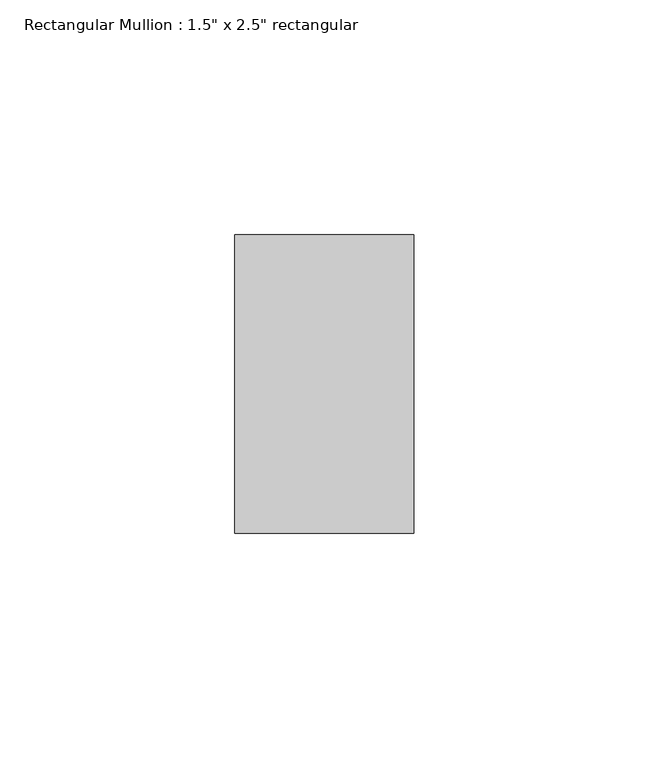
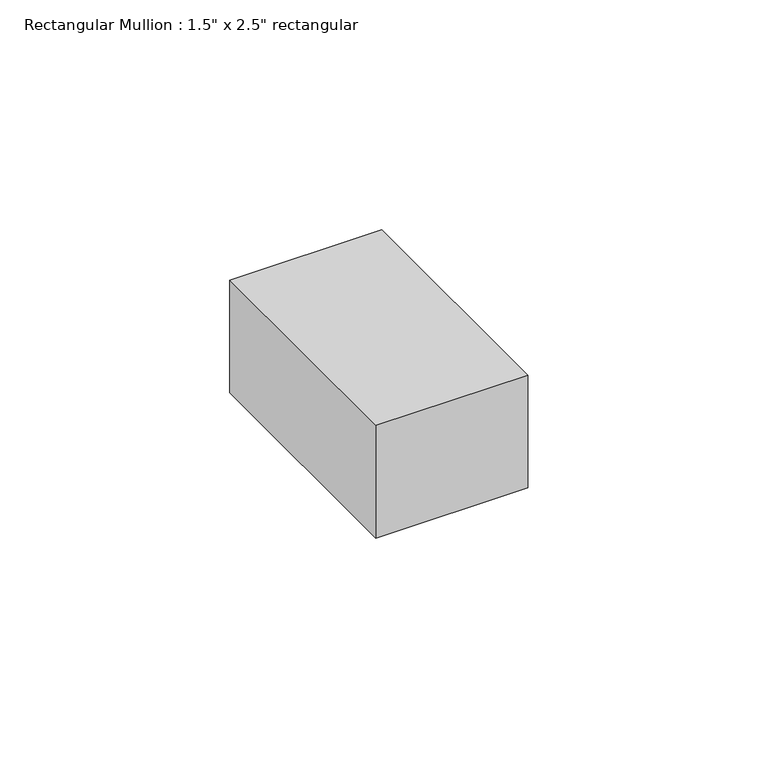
"""IFC4 building model written with IfcOpenShell, lengths in millimetres: member geometry."""

from ifc_helpers import new_model, si_unit, frame, origin, place, context, project, spatial, polyline, outline, extrude, source, transform, mapped, element, save


def member_8a95ad52(model_context):
    return source(origin(), model_context, "Body", "SweptSolid", [
        extrude(outline(polyline([(19.05, 31.75), (19.05, -31.75), (-19.05, -31.75), (-19.05, 31.75), (19.05, 31.75)])), frame((0.0, 0.0, -29.9356084), z_axis=(0.0, 0.0, 1.0), x_axis=(1.0, 0.0, 0.0)), (0.0, 0.0, 1.0), 29.9356084),
    ])


if __name__ == "__main__":
    model = new_model("IFC4")
    model_context = context("Model", 3, world=origin())
    ifc_project = project(units=[si_unit("LENGTHUNIT", "METRE", prefix="MILLI")], contexts=[model_context])
    site = spatial("IfcSite", under=ifc_project)
    building = spatial("IfcBuilding", under=site)
    placement = place(None, origin())
    member_shape = member_8a95ad52(model_context)
    element("IfcMember", 1, ObjectType="Rectangular Mullion : 1.5\" x 2.5\" rectangular", at=placement, inside=building, context=model_context, shape_type="MappedRepresentation", body=[
        mapped(member_shape, transform((0.0, 0.0, 0.0), x_axis=(1.0, 0.0, 0.0), y_axis=(0.0, 1.0, 0.0), z_axis=(0.0, 0.0, 1.0))),
    ])
    save(model, "model.ifc")
